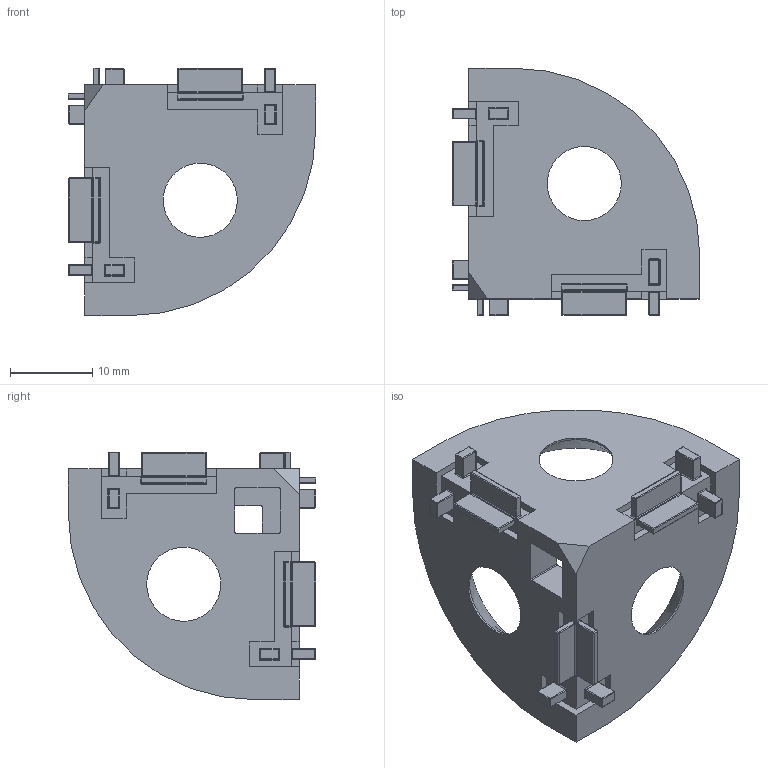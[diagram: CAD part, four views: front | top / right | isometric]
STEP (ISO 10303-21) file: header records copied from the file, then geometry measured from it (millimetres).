
FILE_DESCRIPTION (( 'STEP AP203' ), '1' );
FILE_NAME ('3 way connector cast 30 x 30.STEP', '2012-05-29T19:36:09', ( '' ), ( '' ), 'SwSTEP 2.0', 'SolidWorks 2010', '' );
FILE_SCHEMA (( 'CONFIG_CONTROL_DESIGN' ));
Length unit declared in the file: millimetre
Products named in the file (1): 3 way connector cast 30 x 30
Bounding box: 30 x 30 x 30 mm (x, y, z)
Volume: 5359.4 mm3; surface area: 4349 mm2
Topology: 1 solids, 1 shells, 340 faces, 801 edges, 438 vertices
Faces by surface type: cylinder 151, plane 105, torus 48, sphere 30, cone 6
Entity records: 9424 total; most frequent: DIRECTION 1755, CARTESIAN_POINT 1604, ORIENTED_EDGE 1542, EDGE_CURVE 771, AXIS2_PLACEMENT_3D 661, VERTEX_POINT 438, VECTOR 433, LINE 433
